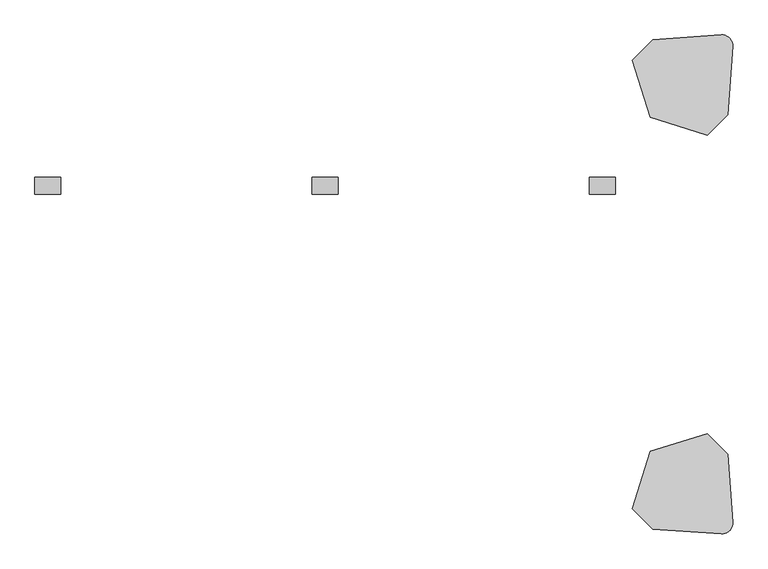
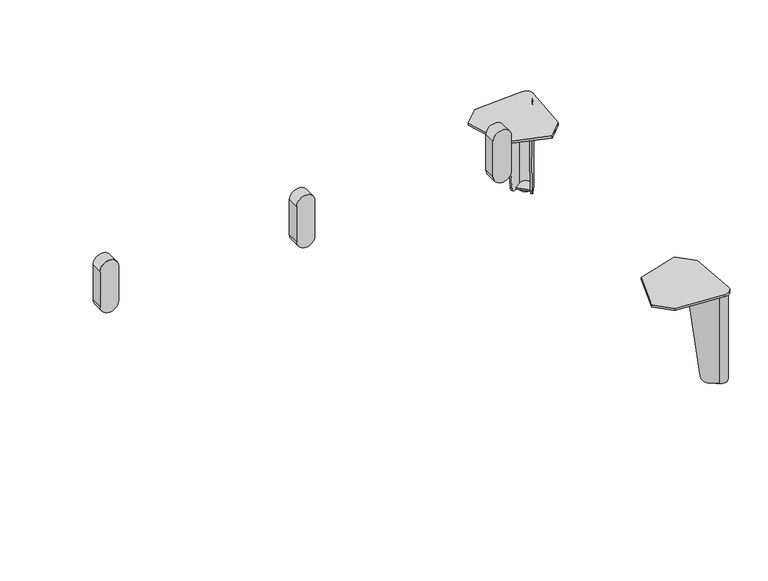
"""IFC4 building model written with IfcOpenShell, lengths in millimetres: furniture geometry, Stance_HC-Flora-Booth : FAL148AC-HB."""

from ifc_helpers import new_model, si_unit, point, frame, frame_2d, origin, origin_with_axes, place, context, project, spatial, polyline, circle_curve, ellipse_curve, trimmed, segment, composite_curve, outline, extrude, source, transform, mapped, element, save
from ifc_brep_helpers import plane_surface, cylinder_surface, revolved_surface, advanced_brep


def furniture_f91325f4(model_context):
    return source(origin(), model_context, "Body", "SolidModel", [
        extrude(outline(composite_curve([segment(polyline([(298.45, 596.9), (222.25, 596.9)]), True, "CONTINUOUS"), segment(trimmed(circle_curve(frame_2d((222.25, 615.95)), 19.05), [point((222.25, 596.9))], [point((222.25, 635.0))], False, "CARTESIAN"), True, "CONTINUOUS"), segment(polyline([(222.25, 635.0), (298.45, 635.0)]), True, "CONTINUOUS"), segment(trimmed(circle_curve(frame_2d((298.45, 615.95)), 19.05), [point((298.45, 635.0))], [point((298.45, 596.9))], False, "CARTESIAN"), True, "CONTINUOUS")], self_intersect=False)), frame((0.0, -249.250193, 0.0), z_axis=(0.0, 1.0, 0.0), x_axis=(0.0, 0.0, 1.0)), (0.0, 0.0, 1.0), 25.3999939),
        extrude(outline(composite_curve([segment(polyline([(298.45, 1003.3), (222.25, 1003.3)]), True, "CONTINUOUS"), segment(trimmed(circle_curve(frame_2d((222.25, 1022.35)), 19.05), [point((222.25, 1003.3))], [point((222.25, 1041.4))], False, "CARTESIAN"), True, "CONTINUOUS"), segment(polyline([(222.25, 1041.4), (298.45, 1041.4)]), True, "CONTINUOUS"), segment(trimmed(circle_curve(frame_2d((298.45, 1022.35)), 19.05), [point((298.45, 1041.4))], [point((298.45, 1003.3))], False, "CARTESIAN"), True, "CONTINUOUS")], self_intersect=False)), frame((0.0, -249.250193, 0.0), z_axis=(0.0, 1.0, 0.0), x_axis=(0.0, 0.0, 1.0)), (0.0, 0.0, 1.0), 25.3999939),
        extrude(outline(composite_curve([segment(polyline([(298.45, 190.5), (222.25, 190.5)]), True, "CONTINUOUS"), segment(trimmed(circle_curve(frame_2d((222.25, 209.55)), 19.05), [point((222.25, 190.5))], [point((222.25, 228.6))], False, "CARTESIAN"), True, "CONTINUOUS"), segment(polyline([(222.25, 228.6), (298.45, 228.6)]), True, "CONTINUOUS"), segment(trimmed(circle_curve(frame_2d((298.45, 209.55)), 19.05), [point((298.45, 228.6))], [point((298.45, 190.5))], False, "CARTESIAN"), True, "CONTINUOUS")], self_intersect=False)), frame((0.0, -249.250193, 0.0), z_axis=(0.0, 1.0, 0.0), x_axis=(0.0, 0.0, 1.0)), (0.0, 0.0, 1.0), 25.3999939),
        extrude(outline(composite_curve([segment(polyline([(1176.0692791, -32.5186459), (1189.3741789, -23.2024186)]), True, "CONTINUOUS"), segment(trimmed(circle_curve(frame_2d((1196.0246983, -32.7003078)), 11.5947965), [point((1189.3741789, -23.2024186))], [point((1205.5225874, -39.3508272))], False, "CARTESIAN"), True, "CONTINUOUS"), segment(polyline([(1205.5225874, -39.3508272), (1196.2063601, -52.6557269), (1176.0692791, -32.5186459)]), True, "CONTINUOUS")], self_intersect=False)), frame((0.0, 0.0, 3.175), z_axis=(0.0, 0.0, 1.0), x_axis=(1.0, 0.0, 0.0)), (0.0, 0.0, 1.0), 3.3792927),
        advanced_brep(
        [(1176.2314582, -86.7866368, 193.6877233), (1208.1555647, -41.1944649, 193.6877233), (1187.5305412, -20.5694413, 193.6877233), (1141.9383719, -52.4935459, 193.6877233), (1143.7820096, -55.1265233, 193.6877233), (1189.3741789, -23.2024186, 193.6877233), (1205.5225874, -39.3508272, 193.6877233), (1173.5984809, -84.9429991, 193.6877233), (1176.2314582, -86.7866368, 189.1419595), (1205.5225874, -39.3508272, 3.1876992), (1195.4018779, -53.8046422, 3.1876992), (1186.2247818, -66.9108427, 17.1280233), (1189.3741789, -23.2024186, 3.1876992), (1161.8141633, -42.5002243, 17.1280233), (1174.9203639, -33.3231282, 3.1876992), (1141.9383719, -52.4935459, 189.1419334), (1187.5305412, -20.5694413, 3.1876992), (1172.6124662, -31.0152305, 3.1876992), (1159.5062656, -40.1923266, 17.1280233), (1208.1555647, -41.1944649, 3.1876992), (1188.5326795, -69.2187405, 17.1280233), (1197.7097756, -56.1125399, 3.1876992)],
        [
            (0, 1),
            (1, 2, circle_curve(frame((1196.0246983, -32.7003078, 193.6877233), z_axis=(0.0, 0.0, 1.0), x_axis=(-1.0, 0.0, 0.0)), 14.8090724)),
            (2, 3),
            (3, 4),
            (4, 5),
            (5, 6, circle_curve(frame((1196.0246983, -32.7003078, 193.6877233), z_axis=(0.0, 0.0, -1.0), x_axis=(-1.0, 0.0, 0.0)), 11.5947965)),
            (6, 7),
            (7, 0),
            (7, 8),
            (8, 0),
            (6, 9),
            (9, 10),
            (10, 11, ellipse_curve(frame((1195.4018779, -53.8046422, 19.0626992), z_axis=(-0.8191509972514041, 0.5735779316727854, 0.0), x_axis=(-0.5735779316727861, -0.8191509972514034, 0.0)), 16.1198923, 15.875)),
            (11, 7),
            (5, 12),
            (12, 9, circle_curve(frame((1196.0246983, -32.7003078, 3.1876992), z_axis=(0.0, 0.0, -1.0), x_axis=(-1.0, 0.0, 0.0)), 11.5947965)),
            (4, 13),
            (13, 14, ellipse_curve(frame((1174.9203639, -33.3231282, 19.0626992), z_axis=(0.5735779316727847, -0.8191509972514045, 0.0), x_axis=(0.8191509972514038, 0.5735779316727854, 0.0)), 16.1198923, 15.875)),
            (14, 12),
            (3, 15),
            (15, 4),
            (2, 16),
            (16, 17),
            (17, 18, ellipse_curve(frame((1172.6124662, -31.0152305, 19.0626992), z_axis=(-0.5735779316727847, 0.8191509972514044, 0.0), x_axis=(0.8191509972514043, 0.573577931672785, 0.0)), 16.1198923, 15.875)),
            (18, 15),
            (1, 19),
            (19, 16, circle_curve(frame((1196.0246983, -32.7003078, 3.1876992), z_axis=(0.0, 0.0, 1.0), x_axis=(-1.0, 0.0, 0.0)), 14.8090724)),
            (8, 20),
            (20, 21, ellipse_curve(frame((1197.7097756, -56.1125399, 19.0626992), z_axis=(0.8191509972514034, -0.5735779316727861, 0.0), x_axis=(-0.5735779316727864, -0.8191509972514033, 0.0)), 16.1198923, 15.875)),
            (21, 19),
            (18, 13),
            (11, 20),
            (21, 10),
            (14, 17),
        ],
        [
            plane_surface(frame((1173.5984809, -84.9429991, 193.6877233), z_axis=(0.0, 0.0, 1.0000000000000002), x_axis=(-0.8191509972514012, 0.5735779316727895, 0.0))),
            plane_surface(frame((1176.2314582, -86.7866368, 193.6877233), z_axis=(-0.5735779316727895, -0.8191509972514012, 0.0), x_axis=(0.0, 0.0, -1.0))),
            plane_surface(frame((1173.5984809, -84.9429991, 193.6877233), z_axis=(-0.8191509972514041, 0.5735779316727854, 0.0), x_axis=(0.0, 0.0, -1.0))),
            revolved_surface(polyline([(1184.4299018, -32.7003078, 3.1876992), (1184.4299018, -32.7003078, 193.6877233)]), (1196.0246983, -32.7003078, 0.0), (0.0, 0.0, -1.0)),
            plane_surface(frame((1189.3741789, -23.2024186, 193.6877233), z_axis=(0.5735779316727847, -0.8191509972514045, 0.0), x_axis=(0.0, 0.0, -1.0))),
            plane_surface(frame((1143.7820096, -55.1265233, 193.6877233), z_axis=(-0.8191509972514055, -0.5735779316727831, 0.0), x_axis=(0.0, 0.0, -1.0))),
            plane_surface(frame((1141.9383719, -52.4935459, 193.6877233), z_axis=(-0.5735779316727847, 0.8191509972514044, 0.0), x_axis=(0.0, 0.0, -1.0))),
            cylinder_surface(frame((1196.0246983, -32.7003078, 0.0), z_axis=(0.0, 0.0, 1.0), x_axis=(-1.0, 0.0, 0.0)), 14.8090724),
            plane_surface(frame((1208.1555647, -41.1944649, 193.6877233), z_axis=(0.8191509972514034, -0.5735779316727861, 0.0), x_axis=(0.0, 0.0, -1.0))),
            plane_surface(frame((1153.6224625, -34.3085234, 17.1280233), z_axis=(-0.7018361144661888, -0.7018361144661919, -0.12186934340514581), x_axis=(0.7071067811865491, -0.707106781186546, 0.0))),
            plane_surface(frame((1186.112818, -1.818168, 3.1876992), z_axis=(0.0, 0.0, -1.0), x_axis=(0.707106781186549, -0.707106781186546, 0.0))),
            cylinder_surface(frame((1205.5497538, -63.9525182, 19.0626992), z_axis=(0.7071067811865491, -0.707106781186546, 0.0), x_axis=(-0.707106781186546, -0.7071067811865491, 0.0)), 15.875),
        ],
        [
            (0, [[1, 2, 3, 4, 5, 6, 7, 8]]),
            (1, [[9, 10, -8]]),
            (2, [[11, 12, 13, 14, -7]]),
            (3, [[15, 16, -11, -6]]),
            (4, [[17, 18, 19, -15, -5]]),
            (5, [[20, 21, -4]]),
            (6, [[22, 23, 24, 25, -20, -3]]),
            (7, [[26, 27, -22, -2]]),
            (8, [[-10, 28, 29, 30, -26, -1]]),
            (9, [[-17, -21, -25, 31]]),
            (9, [[-28, -9, -14, 32]]),
            (10, [[-23, -27, -30, 33, -12, -16, -19, 34]]),
            (11, [[-13, -33, -29, -32]]),
            (11, [[-24, -34, -18, -31]]),
        ],
    ),
        extrude(outline(composite_curve([segment(trimmed(circle_curve(frame_2d((1193.9913541, -34.7252749)), 11.1125), [point((1205.1038541, -34.7252749))], [point((1182.8788541, -34.7252749))], False, "CARTESIAN"), True, "CONTINUOUS"), segment(trimmed(circle_curve(frame_2d((1193.9913541, -34.7252749)), 11.1125), [point((1182.8788541, -34.7252749))], [point((1205.1038541, -34.7252749))], False, "CARTESIAN"), True, "CONTINUOUS")], self_intersect=False)), origin_with_axes(), (0.0, 0.0, 1.0), 3.175),
        extrude(outline(composite_curve([segment(trimmed(circle_curve(frame_2d((1197.3438064, -31.3811988)), 15.8749964), [point((1196.2364228, -15.5448732))], [point((1213.1801321, -32.4885822))], False, "CARTESIAN"), True, "CONTINUOUS"), segment(polyline([(1213.1801321, -32.4885822), (1206.1831602, -132.5499778), (1176.3327865, -162.4003462), (1092.3896864, -136.3353271), (1066.3246518, -52.3922188), (1096.1750239, -22.5418467), (1196.2364228, -15.5448732)]), True, "CONTINUOUS")], self_intersect=False)), frame((0.0, 0.0, 193.6877233), z_axis=(0.0, 0.0, 1.0), x_axis=(1.0, 0.0, 0.0)), (0.0, 0.0, 1.0), 4.7751809),
        extrude(outline(composite_curve([segment(polyline([(1176.0692791, -729.4814086), (1196.2063601, -709.3443276), (1205.5225874, -722.6492273)]), True, "CONTINUOUS"), segment(trimmed(circle_curve(frame_2d((1196.0246983, -729.2997467)), 11.5947965), [point((1205.5225874, -722.6492273))], [point((1189.3741789, -738.7976359))], False, "CARTESIAN"), True, "CONTINUOUS"), segment(polyline([(1189.3741789, -738.7976359), (1176.0692791, -729.4814086)]), True, "CONTINUOUS")], self_intersect=False)), frame((0.0, 0.0, 3.175), z_axis=(0.0, 0.0, 1.0), x_axis=(1.0, 0.0, 0.0)), (0.0, 0.0, 1.0), 3.3792927),
        advanced_brep(
        [(1176.2314582, -675.2134177, 193.6877233), (1173.5984809, -677.0570554, 193.6877233), (1205.5225874, -722.6492273, 193.6877233), (1189.3741789, -738.7976359, 193.6877233), (1143.7820096, -706.8735312, 193.6877233), (1141.9383719, -709.5065086, 193.6877233), (1187.5305412, -741.4306132, 193.6877233), (1208.1555647, -720.8055896, 193.6877233), (1176.2314582, -675.2134177, 189.1419595), (1186.2247818, -695.0892118, 17.1280233), (1195.4018779, -708.1954123, 3.1876992), (1205.5225874, -722.6492273, 3.1876992), (1189.3741789, -738.7976359, 3.1876992), (1174.9203639, -728.6769263, 3.1876992), (1161.8141633, -719.4998302, 17.1280233), (1141.9383719, -709.5065086, 189.1419334), (1159.5062656, -721.8077279, 17.1280233), (1172.6124662, -730.984824, 3.1876992), (1187.5305412, -741.4306132, 3.1876992), (1208.1555647, -720.8055896, 3.1876992), (1197.7097756, -705.8875146, 3.1876992), (1188.5326795, -692.781314, 17.1280233)],
        [
            (0, 1),
            (1, 2),
            (2, 3, circle_curve(frame((1196.0246983, -729.2997467, 193.6877233), z_axis=(0.0, 0.0, -1.0), x_axis=(-1.0, 0.0, 0.0)), 11.5947965)),
            (3, 4),
            (4, 5),
            (5, 6),
            (6, 7, circle_curve(frame((1196.0246983, -729.2997467, 193.6877233), z_axis=(0.0, 0.0, 1.0), x_axis=(-1.0, 0.0, 0.0)), 14.8090724)),
            (7, 0),
            (0, 8),
            (8, 1),
            (1, 9),
            (9, 10, ellipse_curve(frame((1195.4018779, -708.1954123, 19.0626992), z_axis=(-0.8191509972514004, -0.5735779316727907, 0.0), x_axis=(-0.5735779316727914, 0.8191509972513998, 0.0)), 16.1198923, 15.875)),
            (10, 11),
            (11, 2),
            (11, 12, circle_curve(frame((1196.0246983, -729.2997467, 3.1876992), z_axis=(0.0, 0.0, -1.0), x_axis=(-1.0, 0.0, 0.0)), 11.5947965)),
            (12, 3),
            (12, 13),
            (13, 14, ellipse_curve(frame((1174.9203639, -728.6769263, 19.0626992), z_axis=(0.5735779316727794, 0.8191509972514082, 0.0), x_axis=(0.8191509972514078, -0.5735779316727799, 0.0)), 16.1198923, 15.875)),
            (14, 4),
            (4, 15),
            (15, 5),
            (15, 16),
            (16, 17, ellipse_curve(frame((1172.6124662, -730.984824, 19.0626992), z_axis=(-0.5735779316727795, -0.8191509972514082, 0.0), x_axis=(0.8191509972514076, -0.5735779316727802, 0.0)), 16.1198923, 15.875)),
            (17, 18),
            (18, 6),
            (18, 19, circle_curve(frame((1196.0246983, -729.2997467, 3.1876992), z_axis=(0.0, 0.0, 1.0), x_axis=(-1.0, 0.0, 0.0)), 14.8090724)),
            (19, 7),
            (19, 20),
            (20, 21, ellipse_curve(frame((1197.7097756, -705.8875146, 19.0626992), z_axis=(0.8191509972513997, 0.5735779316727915, 0.0), x_axis=(-0.573577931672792, 0.8191509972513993, 0.0)), 16.1198923, 15.875)),
            (21, 8),
            (14, 16),
            (21, 9),
            (17, 13),
            (10, 20),
        ],
        [
            plane_surface(frame((1173.5984809, -677.0570554, 193.6877233), z_axis=(0.0, 0.0, 0.9999999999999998), x_axis=(-0.8191509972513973, -0.5735779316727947, 0.0))),
            plane_surface(frame((1176.2314582, -675.2134177, 193.6877233), z_axis=(-0.5735779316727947, 0.8191509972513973, 0.0), x_axis=(0.0, 0.0, -1.0))),
            plane_surface(frame((1173.5984809, -677.0570554, 193.6877233), z_axis=(-0.8191509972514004, -0.5735779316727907, 0.0), x_axis=(0.0, 0.0, -1.0))),
            revolved_surface(polyline([(1184.4299018, -729.2997467, 3.1876992), (1184.4299018, -729.2997467, 193.6877233)]), (1196.0246983, -729.2997467, 0.0), (0.0, 0.0, -1.0)),
            plane_surface(frame((1189.3741789, -738.7976359, 193.6877233), z_axis=(0.5735779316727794, 0.8191509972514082, 0.0), x_axis=(0.0, 0.0, -1.0))),
            plane_surface(frame((1143.7820096, -706.8735312, 193.6877233), z_axis=(-0.8191509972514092, 0.5735779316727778, 0.0), x_axis=(0.0, 0.0, -1.0))),
            plane_surface(frame((1141.9383719, -709.5065086, 193.6877233), z_axis=(-0.5735779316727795, -0.8191509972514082, 0.0), x_axis=(0.0, 0.0, -1.0))),
            cylinder_surface(frame((1196.0246983, -729.2997467, 0.0), z_axis=(0.0, 0.0, 1.0), x_axis=(-1.0, 0.0, 0.0)), 14.8090724),
            plane_surface(frame((1208.1555647, -720.8055896, 193.6877233), z_axis=(0.8191509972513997, 0.5735779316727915, 0.0), x_axis=(0.0, 0.0, -1.0))),
            plane_surface(frame((1153.6224625, -727.6915311, 17.1280233), z_axis=(-0.7018361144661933, 0.7018361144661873, -0.12186934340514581), x_axis=(0.7071067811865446, 0.7071067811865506, 0.0))),
            plane_surface(frame((1186.112818, -760.1818865, 3.1876992), z_axis=(0.0, 0.0, -1.0), x_axis=(0.7071067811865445, 0.7071067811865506, 0.0))),
            cylinder_surface(frame((1205.5497538, -698.0475363, 19.0626992), z_axis=(0.7071067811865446, 0.7071067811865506, 0.0), x_axis=(-0.7071067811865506, 0.7071067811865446, 0.0)), 15.875),
        ],
        [
            (0, [[1, 2, 3, 4, 5, 6, 7, 8]]),
            (1, [[-1, 9, 10]]),
            (2, [[-2, 11, 12, 13, 14]]),
            (3, [[-3, -14, 15, 16]]),
            (4, [[-4, -16, 17, 18, 19]]),
            (5, [[-5, 20, 21]]),
            (6, [[-6, -21, 22, 23, 24, 25]]),
            (7, [[-7, -25, 26, 27]]),
            (8, [[-8, -27, 28, 29, 30, -9]]),
            (9, [[31, -22, -20, -19]]),
            (9, [[32, -11, -10, -30]]),
            (10, [[33, -17, -15, -13, 34, -28, -26, -24]]),
            (11, [[-31, -18, -33, -23]]),
            (11, [[-32, -29, -34, -12]]),
        ],
    ),
        extrude(outline(composite_curve([segment(trimmed(circle_curve(frame_2d((1193.9913541, -727.2747796)), 11.1125), [point((1205.1038541, -727.2747796))], [point((1182.8788541, -727.2747796))], False, "CARTESIAN"), True, "CONTINUOUS"), segment(trimmed(circle_curve(frame_2d((1193.9913541, -727.2747796)), 11.1125), [point((1182.8788541, -727.2747796))], [point((1205.1038541, -727.2747796))], False, "CARTESIAN"), True, "CONTINUOUS")], self_intersect=False)), origin_with_axes(), (0.0, 0.0, 1.0), 3.175),
        extrude(outline(composite_curve([segment(polyline([(1196.2364228, -746.4551813), (1096.1750239, -739.4582078), (1066.3246518, -709.6078357), (1092.3896864, -625.6647274), (1176.3327865, -599.5997083), (1206.1831602, -629.4500767), (1213.1801321, -729.5114723)]), True, "CONTINUOUS"), segment(trimmed(circle_curve(frame_2d((1197.3438064, -730.6188557)), 15.8749964), [point((1213.1801321, -729.5114723))], [point((1196.2364228, -746.4551813))], False, "CARTESIAN"), True, "CONTINUOUS")], self_intersect=False)), frame((0.0, 0.0, 193.6877233), z_axis=(0.0, 0.0, 1.0), x_axis=(1.0, 0.0, 0.0)), (0.0, 0.0, 1.0), 4.7751809),
    ])


if __name__ == "__main__":
    model = new_model("IFC4")
    model_context = context("Model", 3, world=origin())
    ifc_project = project(units=[si_unit("LENGTHUNIT", "METRE", prefix="MILLI")], contexts=[model_context])
    site = spatial("IfcSite", under=ifc_project)
    building = spatial("IfcBuilding", under=site)
    placement = place(None, origin())
    furniture_shape = furniture_f91325f4(model_context)
    element("IfcFurniture", 1, ObjectType="Stance_HC-Flora-Booth : FAL148AC-HB", at=placement, inside=building, context=model_context, shape_type="MappedRepresentation", body=[
        mapped(furniture_shape, transform((0.0, 0.0, 0.0), x_axis=(1.0, 0.0, 0.0), y_axis=(0.0, 1.0, 0.0), z_axis=(0.0, 0.0, 1.0))),
    ])
    save(model, "model.ifc")
